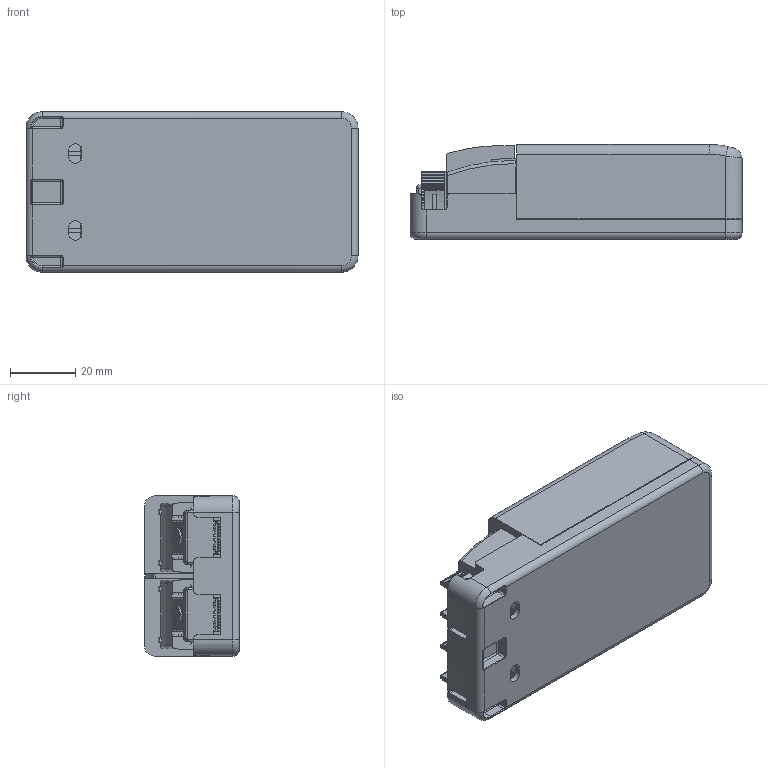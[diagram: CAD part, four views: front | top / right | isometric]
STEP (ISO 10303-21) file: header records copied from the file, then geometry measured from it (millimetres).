
FILE_DESCRIPTION((''),'2;1');
FILE_NAME('LDT21W_ASM','2021-11-15T14:41:28',('DELL'),(''),'CREO PARAMETRIC BY PTC INC, 2019224','CREO PARAMETRIC BY PTC INC, 2019224','');
FILE_SCHEMA(('AUTOMOTIVE_DESIGN { 1 0 10303 214 1 1 1 1 }'));
Products named in the file (313): LDT21W-B; LDT21W-A; CASE-LDT21W-P0001; OPEN_CASCADE_STEP_TRANSLATO-330; BOARD_ASM; OPEN_CASCADE_STEP_TRANSLAT-4897; BODY-4887_ASM; LEAD-6256; 5928093632_ASM; D15_ASM; MID_BODY-6488; OPEN_CASCADE_STEP_TRANSLAT-6674; TERMINAL-6664_ASM; MARK-6986; 5928093152_ASM; R10_ASM; LEFTPIN-7225; BODY-7297; PART0-7369; PART1-7441; PART2-7513; PART3-7585; RIGHTPIN-7657; 5928093792_ASM; D14_ASM; OPEN_CASCADE_STEP_TRANSLAT-7800; OPEN_CASCADE_STEP_TRANSLAT-8273; TERMINAL-7786_ASM; OPEN_CASCADE_STEP_TRANSLAT-8769; MID_BODY-8759_ASM; 5928104992_ASM; C21_ASM; OPEN_CASCADE_STEP_TRANSLAT-9155; OPEN_CASCADE_STEP_TRANSLAT-9628; TERMINAL-9141_ASM; OPEN_CASCADE_STEP_TRANSLA-10124; MID_BODY-10114_ASM; 5928103872_ASM; C20_ASM; OPEN_CASCADE_STEP_TRANSLA-10510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
Assembly tree (383 placements, depth 7):
  LDT21W_ASM
    LDT21W-B
    LDT21W-A
    CASE-LDT21W-P0001  x2
    PCB_LDT21W_ASM
      PCB_ASM
        BOARD_ASM
          OPEN_CASCADE_STEP_TRANSLATO-330
        D15_ASM
          5928093632_ASM
            BODY-4887_ASM
              OPEN_CASCADE_STEP_TRANSLAT-4897
            LEAD-6256  x2
        R10_ASM
          5928093152_ASM
            MID_BODY-6488
            TERMINAL-6664_ASM  x2
              OPEN_CASCADE_STEP_TRANSLAT-6674
            MARK-6986
        D14_ASM
          5928093792_ASM
            LEFTPIN-7225
            BODY-7297
            PART0-7369
            PART1-7441
            PART2-7513
            PART3-7585
            RIGHTPIN-7657
        C21_ASM
          5928104992_ASM
            TERMINAL-7786_ASM
              OPEN_CASCADE_STEP_TRANSLAT-7800
              OPEN_CASCADE_STEP_TRANSLAT-8273
            MID_BODY-8759_ASM
              OPEN_CASCADE_STEP_TRANSLAT-8769
        C20_ASM
          5928103872_ASM
            TERMINAL-9141_ASM
              OPEN_CASCADE_STEP_TRANSLAT-9155
              OPEN_CASCADE_STEP_TRANSLAT-9628
            MID_BODY-10114_ASM
              OPEN_CASCADE_STEP_TRANSLA-10124
        D13_ASM
          5928093552_ASM
            BODY-10500_ASM
              OPEN_CASCADE_STEP_TRANSLA-10510
            LEAD-11869  x2
        C16_ASM
          5928103872_ASM
            TERMINAL-9141_ASM
              OPEN_CASCADE_STEP_TRANSLAT-9155
              OPEN_CASCADE_STEP_TRANSLAT-9628
            MID_BODY-10114_ASM
              OPEN_CASCADE_STEP_TRANSLA-10124
        Q1_ASM
          Q1-USER_LIBRARY-TO-126-Y_ASM
            USER_LIBRARY-TO-126-Y_1
            USER_LIBRARY-TO-126-Y_2
            Q4-USER_LIBRARY-TO-126-Y_3
            USER_LIBRARY-TO-126-Y_4
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Bounding box: 101.5 x 29 x 49 mm (x, y, z)
Volume: 50014.3 mm3; surface area: 68045.1 mm2
Topology: 297 solids, 299 shells, 6307 faces, 15226 edges, 9197 vertices
Faces by surface type: plane 3636, cylinder 1795, sphere 314, torus 258, bspline 228, revolution 32, extrusion 24, cone 20
Entity records: 200106 total; most frequent: CARTESIAN_POINT 45378, DIRECTION 22518, ORIENTED_EDGE 20150, PRESENTATION_STYLE_ASSIGNMENT 10609, STYLED_ITEM 10098, EDGE_CURVE 10075, CURVE_STYLE 8858, AXIS2_PLACEMENT_3D 7999
